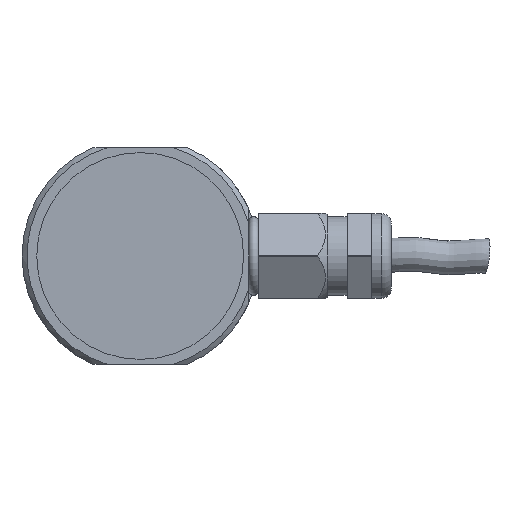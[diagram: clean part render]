
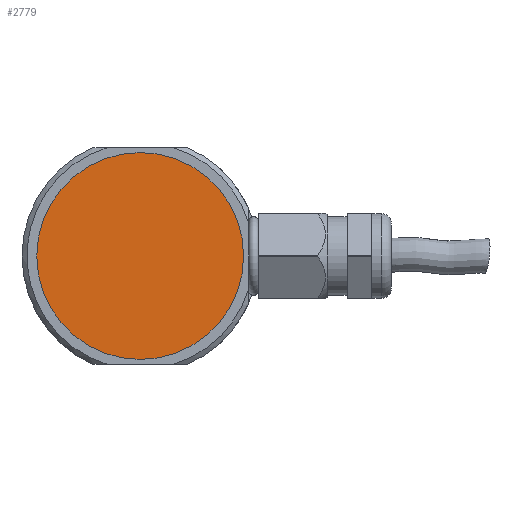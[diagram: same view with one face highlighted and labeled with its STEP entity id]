
A CAD part, left-side view. The second image highlights one B-rep face of the part: STEP entity #2779.
In plain terms, the highlighted planar face has unit normal (-1, 0, 0).
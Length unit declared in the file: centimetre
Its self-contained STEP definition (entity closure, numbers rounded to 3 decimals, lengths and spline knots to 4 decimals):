
#999=PLANE('',#2943);
#1126=VERTEX_POINT('',#3210);
#1328=CIRCLE('',#2942,1.05);
#1428=EDGE_CURVE('',#1126,#1126,#1328,.T.);
#1811=ORIENTED_EDGE('',*,*,#1428,.T.);
#2434=EDGE_LOOP('',(#1811));
#2612=FACE_BOUND('',#2434,.T.);
#2779=ADVANCED_FACE('',(#2612),#999,.F.);
#2942=AXIS2_PLACEMENT_3D('',#3209,#4585,#4586);
#2943=AXIS2_PLACEMENT_3D('',#3211,#4587,$);
#3209=CARTESIAN_POINT('',(-1.9,0.,0.));
#3210=CARTESIAN_POINT('',(-1.9,0.,-1.05));
#3211=CARTESIAN_POINT('',(-1.9,0.,0.));
#4585=DIRECTION('',(-1.,0.,0.));
#4586=DIRECTION('',(0.,0.,-1.05));
#4587=DIRECTION('',(1.,0.,0.));
